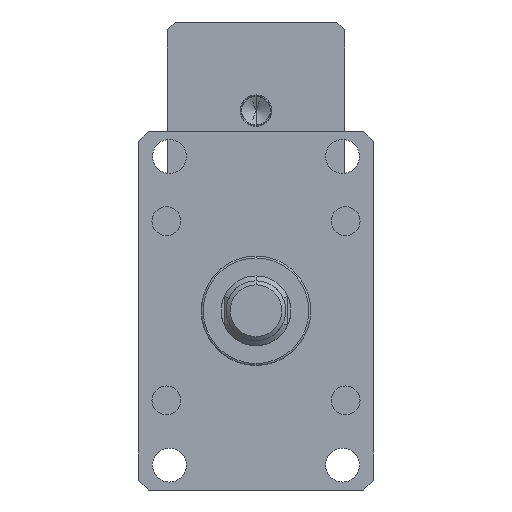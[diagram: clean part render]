
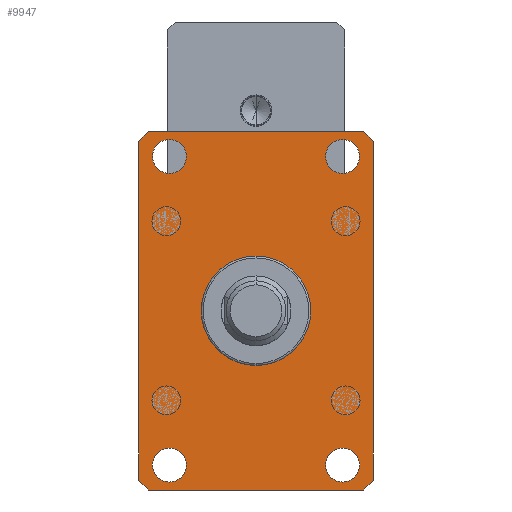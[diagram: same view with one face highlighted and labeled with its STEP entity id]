
A CAD part, front view. The second image highlights one B-rep face of the part: STEP entity #9947.
In plain terms, the highlighted planar face has unit normal (0, -1, 0).
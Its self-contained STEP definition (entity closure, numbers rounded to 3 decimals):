
#18 = ORIENTED_EDGE ( 'NONE', *, *, #5171, .T. ) ;
#336 = ORIENTED_EDGE ( 'NONE', *, *, #5494, .T. ) ;
#365 = CARTESIAN_POINT ( 'NONE',  ( -43.5, -55., -77.5 ) ) ;
#404 = CARTESIAN_POINT ( 'NONE',  ( -43.5, -55., 77.5 ) ) ;
#461 = ORIENTED_EDGE ( 'NONE', *, *, #4344, .T. ) ;
#613 = ORIENTED_EDGE ( 'NONE', *, *, #2864, .T. ) ;
#632 = EDGE_CURVE ( 'NONE', #1475, #6664, #9673, .T. ) ;
#883 = FACE_BOUND ( 'NONE', #9311, .T. ) ;
#919 = DIRECTION ( 'NONE',  ( 0., 0., 1. ) ) ;
#1118 = DIRECTION ( 'NONE',  ( 0., 1., 0. ) ) ;
#1166 = DIRECTION ( 'NONE',  ( 0., 1., 0. ) ) ;
#1205 = CARTESIAN_POINT ( 'NONE',  ( 43.5, -55., 69. ) ) ;
#1410 = DIRECTION ( 'NONE',  ( 0., 0., 1. ) ) ;
#1446 = DIRECTION ( 'NONE',  ( 0., 0., -1. ) ) ;
#1463 = CARTESIAN_POINT ( 'NONE',  ( 59., -55., 85. ) ) ;
#1475 = VERTEX_POINT ( 'NONE', #5448 ) ;
#1486 = LINE ( 'NONE', #1463, #6762 ) ;
#1502 = EDGE_CURVE ( 'NONE', #8855, #10310, #9951, .T. ) ;
#1513 = AXIS2_PLACEMENT_3D ( 'NONE', #404, #7396, #1446 ) ;
#1770 = CARTESIAN_POINT ( 'NONE',  ( -54., -55., -90. ) ) ;
#1781 = CARTESIAN_POINT ( 'NONE',  ( 43.5, -55., -86. ) ) ;
#1830 = CIRCLE ( 'NONE', #10569, 8.5 ) ;
#1849 = VECTOR ( 'NONE', #11733, 1000. ) ;
#1919 = CARTESIAN_POINT ( 'NONE',  ( -43.5, -55., 77.5 ) ) ;
#1989 = CARTESIAN_POINT ( 'NONE',  ( 54., -55., -90. ) ) ;
#2011 = VECTOR ( 'NONE', #3339, 1000. ) ;
#2018 = EDGE_CURVE ( 'NONE', #7351, #8822, #5255, .T. ) ;
#2163 = VECTOR ( 'NONE', #6463, 1000. ) ;
#2454 = VERTEX_POINT ( 'NONE', #9924 ) ;
#2463 = VECTOR ( 'NONE', #12742, 1000. ) ;
#2538 = ORIENTED_EDGE ( 'NONE', *, *, #6456, .T. ) ;
#2544 = ORIENTED_EDGE ( 'NONE', *, *, #632, .T. ) ;
#2771 = EDGE_CURVE ( 'NONE', #6596, #8855, #11441, .T. ) ;
#2787 = CARTESIAN_POINT ( 'NONE',  ( 43.5, -55., -69. ) ) ;
#2864 = EDGE_CURVE ( 'NONE', #9463, #6596, #5392, .T. ) ;
#2944 = DIRECTION ( 'NONE',  ( 0., 0., -1. ) ) ;
#3006 = CARTESIAN_POINT ( 'NONE',  ( -59., -55., -85. ) ) ;
#3168 = EDGE_CURVE ( 'NONE', #8822, #7351, #10973, .T. ) ;
#3176 = EDGE_CURVE ( 'NONE', #7368, #9566, #10683, .T. ) ;
#3191 = PLANE ( 'NONE',  #12780 ) ;
#3339 = DIRECTION ( 'NONE',  ( 0., 0., -1. ) ) ;
#3348 = EDGE_CURVE ( 'NONE', #11320, #7618, #4325, .T. ) ;
#3389 = EDGE_LOOP ( 'NONE', ( #4134, #5778 ) ) ;
#3560 = VERTEX_POINT ( 'NONE', #5465 ) ;
#3714 = ORIENTED_EDGE ( 'NONE', *, *, #1502, .T. ) ;
#3907 = CIRCLE ( 'NONE', #1513, 8.5 ) ;
#4134 = ORIENTED_EDGE ( 'NONE', *, *, #3168, .F. ) ;
#4299 = CARTESIAN_POINT ( 'NONE',  ( -59., -55., 85. ) ) ;
#4325 = CIRCLE ( 'NONE', #7945, 8.5 ) ;
#4344 = EDGE_CURVE ( 'NONE', #7618, #11320, #11171, .T. ) ;
#4764 = EDGE_CURVE ( 'NONE', #9566, #7368, #3907, .T. ) ;
#4810 = CARTESIAN_POINT ( 'NONE',  ( 43.5, -55., -77.5 ) ) ;
#4836 = DIRECTION ( 'NONE',  ( 1., 0., 0. ) ) ;
#4938 = ORIENTED_EDGE ( 'NONE', *, *, #2771, .T. ) ;
#4985 = EDGE_LOOP ( 'NONE', ( #461, #6080 ) ) ;
#5089 = EDGE_CURVE ( 'NONE', #8912, #9463, #6950, .T. ) ;
#5151 = CARTESIAN_POINT ( 'NONE',  ( -54., -55., -90. ) ) ;
#5171 = EDGE_CURVE ( 'NONE', #3560, #8912, #11462, .T. ) ;
#5255 = CIRCLE ( 'NONE', #6138, 8.5 ) ;
#5392 = LINE ( 'NONE', #3006, #2463 ) ;
#5448 = CARTESIAN_POINT ( 'NONE',  ( 59., -55., 85. ) ) ;
#5465 = CARTESIAN_POINT ( 'NONE',  ( -54., -55., 90. ) ) ;
#5474 = CARTESIAN_POINT ( 'NONE',  ( 43.5, -55., 77.5 ) ) ;
#5494 = EDGE_CURVE ( 'NONE', #6664, #3560, #9662, .T. ) ;
#5510 = ORIENTED_EDGE ( 'NONE', *, *, #10170, .T. ) ;
#5760 = DIRECTION ( 'NONE',  ( 0., 0., 1. ) ) ;
#5778 = ORIENTED_EDGE ( 'NONE', *, *, #2018, .F. ) ;
#5846 = CARTESIAN_POINT ( 'NONE',  ( 43.5, -55., 77.5 ) ) ;
#5858 = ORIENTED_EDGE ( 'NONE', *, *, #5089, .T. ) ;
#5922 = CARTESIAN_POINT ( 'NONE',  ( -54., -55., 90. ) ) ;
#6052 = VERTEX_POINT ( 'NONE', #10951 ) ;
#6080 = ORIENTED_EDGE ( 'NONE', *, *, #3348, .T. ) ;
#6108 = CARTESIAN_POINT ( 'NONE',  ( 54., -55., 90. ) ) ;
#6138 = AXIS2_PLACEMENT_3D ( 'NONE', #5474, #12267, #6455 ) ;
#6190 = FACE_BOUND ( 'NONE', #4985, .T. ) ;
#6414 = CARTESIAN_POINT ( 'NONE',  ( 54., -55., -90. ) ) ;
#6455 = DIRECTION ( 'NONE',  ( 0., 0., -1. ) ) ;
#6456 = EDGE_CURVE ( 'NONE', #6052, #2454, #1830, .T. ) ;
#6463 = DIRECTION ( 'NONE',  ( 0.707, 0., 0.707 ) ) ;
#6509 = DIRECTION ( 'NONE',  ( -0.707, 0., -0.707 ) ) ;
#6596 = VERTEX_POINT ( 'NONE', #5151 ) ;
#6664 = VERTEX_POINT ( 'NONE', #7098 ) ;
#6762 = VECTOR ( 'NONE', #10256, 1000. ) ;
#6847 = DIRECTION ( 'NONE',  ( 0., 0., -1. ) ) ;
#6922 = DIRECTION ( 'NONE',  ( 0., 1., 0. ) ) ;
#6950 = LINE ( 'NONE', #4299, #2011 ) ;
#7098 = CARTESIAN_POINT ( 'NONE',  ( 54., -55., 90. ) ) ;
#7105 = CARTESIAN_POINT ( 'NONE',  ( 43.5, -55., -77.5 ) ) ;
#7139 = FACE_BOUND ( 'NONE', #7494, .T. ) ;
#7146 = CARTESIAN_POINT ( 'NONE',  ( 59., -55., -90. ) ) ;
#7351 = VERTEX_POINT ( 'NONE', #1205 ) ;
#7359 = DIRECTION ( 'NONE',  ( 0., 1., 0. ) ) ;
#7368 = VERTEX_POINT ( 'NONE', #8122 ) ;
#7396 = DIRECTION ( 'NONE',  ( 0., -1., 0. ) ) ;
#7494 = EDGE_LOOP ( 'NONE', ( #11482, #12508 ) ) ;
#7618 = VERTEX_POINT ( 'NONE', #2787 ) ;
#7936 = AXIS2_PLACEMENT_3D ( 'NONE', #4810, #11552, #5760 ) ;
#7945 = AXIS2_PLACEMENT_3D ( 'NONE', #7105, #1118, #8039 ) ;
#7999 = ORIENTED_EDGE ( 'NONE', *, *, #9295, .T. ) ;
#8039 = DIRECTION ( 'NONE',  ( 0., 0., 1. ) ) ;
#8092 = DIRECTION ( 'NONE',  ( 0., 0., 1. ) ) ;
#8122 = CARTESIAN_POINT ( 'NONE',  ( -43.5, -55., 69. ) ) ;
#8306 = AXIS2_PLACEMENT_3D ( 'NONE', #365, #7359, #1410 ) ;
#8477 = FACE_BOUND ( 'NONE', #3389, .T. ) ;
#8574 = VECTOR ( 'NONE', #4836, 1000. ) ;
#8610 = CARTESIAN_POINT ( 'NONE',  ( -59., -55., 85. ) ) ;
#8772 = DIRECTION ( 'NONE',  ( 0., -1., 0. ) ) ;
#8822 = VERTEX_POINT ( 'NONE', #11665 ) ;
#8832 = AXIS2_PLACEMENT_3D ( 'NONE', #1919, #8772, #2944 ) ;
#8855 = VERTEX_POINT ( 'NONE', #1989 ) ;
#8912 = VERTEX_POINT ( 'NONE', #8610 ) ;
#8989 = EDGE_LOOP ( 'NONE', ( #4938, #3714, #5510, #2544, #336, #18, #5858, #613 ) ) ;
#9295 = EDGE_CURVE ( 'NONE', #2454, #6052, #10620, .T. ) ;
#9311 = EDGE_LOOP ( 'NONE', ( #2538, #7999 ) ) ;
#9463 = VERTEX_POINT ( 'NONE', #12506 ) ;
#9566 = VERTEX_POINT ( 'NONE', #10812 ) ;
#9662 = LINE ( 'NONE', #5922, #1849 ) ;
#9673 = LINE ( 'NONE', #6108, #9957 ) ;
#9924 = CARTESIAN_POINT ( 'NONE',  ( -43.5, -55., -86. ) ) ;
#9947 = ADVANCED_FACE ( 'NONE', ( #7139, #6190, #883, #11039, #8477 ), #3191, .F. ) ;
#9951 = LINE ( 'NONE', #6414, #2163 ) ;
#9957 = VECTOR ( 'NONE', #10896, 1000. ) ;
#10133 = AXIS2_PLACEMENT_3D ( 'NONE', #5846, #12634, #6847 ) ;
#10170 = EDGE_CURVE ( 'NONE', #10310, #1475, #1486, .T. ) ;
#10256 = DIRECTION ( 'NONE',  ( 0., 0., 1. ) ) ;
#10310 = VERTEX_POINT ( 'NONE', #10472 ) ;
#10472 = CARTESIAN_POINT ( 'NONE',  ( 59., -55., -85. ) ) ;
#10569 = AXIS2_PLACEMENT_3D ( 'NONE', #12704, #6922, #919 ) ;
#10620 = CIRCLE ( 'NONE', #8306, 8.5 ) ;
#10683 = CIRCLE ( 'NONE', #8832, 8.5 ) ;
#10812 = CARTESIAN_POINT ( 'NONE',  ( -43.5, -55., 86. ) ) ;
#10896 = DIRECTION ( 'NONE',  ( -0.707, 0., 0.707 ) ) ;
#10951 = CARTESIAN_POINT ( 'NONE',  ( -43.5, -55., -69. ) ) ;
#10973 = CIRCLE ( 'NONE', #10133, 8.5 ) ;
#11039 = FACE_OUTER_BOUND ( 'NONE', #8989, .T. ) ;
#11141 = CARTESIAN_POINT ( 'NONE',  ( -59., -55., 85. ) ) ;
#11153 = VECTOR ( 'NONE', #6509, 1000. ) ;
#11171 = CIRCLE ( 'NONE', #7936, 8.5 ) ;
#11320 = VERTEX_POINT ( 'NONE', #1781 ) ;
#11441 = LINE ( 'NONE', #1770, #8574 ) ;
#11462 = LINE ( 'NONE', #11141, #11153 ) ;
#11482 = ORIENTED_EDGE ( 'NONE', *, *, #4764, .F. ) ;
#11552 = DIRECTION ( 'NONE',  ( 0., 1., 0. ) ) ;
#11665 = CARTESIAN_POINT ( 'NONE',  ( 43.5, -55., 86. ) ) ;
#11733 = DIRECTION ( 'NONE',  ( -1., 0., 0. ) ) ;
#12267 = DIRECTION ( 'NONE',  ( 0., -1., 0. ) ) ;
#12506 = CARTESIAN_POINT ( 'NONE',  ( -59., -55., -85. ) ) ;
#12508 = ORIENTED_EDGE ( 'NONE', *, *, #3176, .F. ) ;
#12634 = DIRECTION ( 'NONE',  ( 0., -1., 0. ) ) ;
#12704 = CARTESIAN_POINT ( 'NONE',  ( -43.5, -55., -77.5 ) ) ;
#12742 = DIRECTION ( 'NONE',  ( 0.707, 0., -0.707 ) ) ;
#12780 = AXIS2_PLACEMENT_3D ( 'NONE', #7146, #1166, #8092 ) ;
